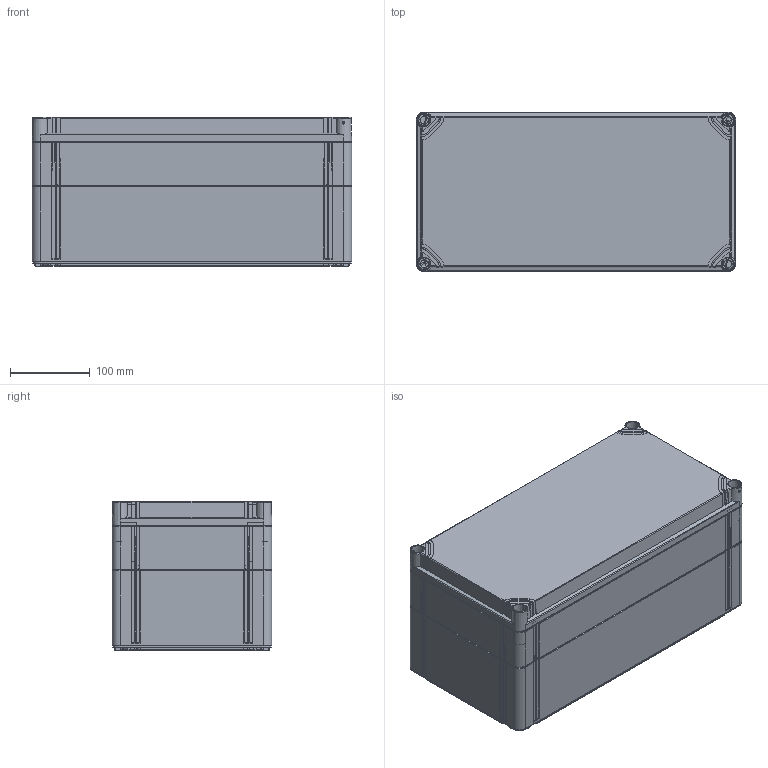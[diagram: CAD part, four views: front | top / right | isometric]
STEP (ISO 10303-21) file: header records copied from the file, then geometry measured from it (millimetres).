
FILE_DESCRIPTION (( 'STEP AP203' ), '1' );
FILE_NAME ('q402018abicc.STEP', '2017-09-06T20:42:37', ( '' ), ( '' ), 'SwSTEP 2.0', 'SolidWorks 2014', '' );
FILE_SCHEMA (( 'CONFIG_CONTROL_DESIGN' ));
Length unit declared in the file: millimetre
Products named in the file (4): 89157904; 89157958; 89157912; q402018abicc
Assembly tree (3 placements, depth 2):
  q402018abicc
    89157904
    89157958
    89157912
Bounding box: 400 x 200 x 187 mm (x, y, z)
Volume: 409055.5 mm3; surface area: 945810.3 mm2
Topology: 1 solids, 3 shells, 3659 faces, 9941 edges, 6420 vertices
Faces by surface type: plane 1765, cone 813, cylinder 684, bspline 397
Entity records: 168368 total; most frequent: CARTESIAN_POINT 82543, ORIENTED_EDGE 19482, DIRECTION 15189, EDGE_CURVE 9931, VERTEX_POINT 6416, AXIS2_PLACEMENT_3D 5096, VECTOR 4997, LINE 4997
